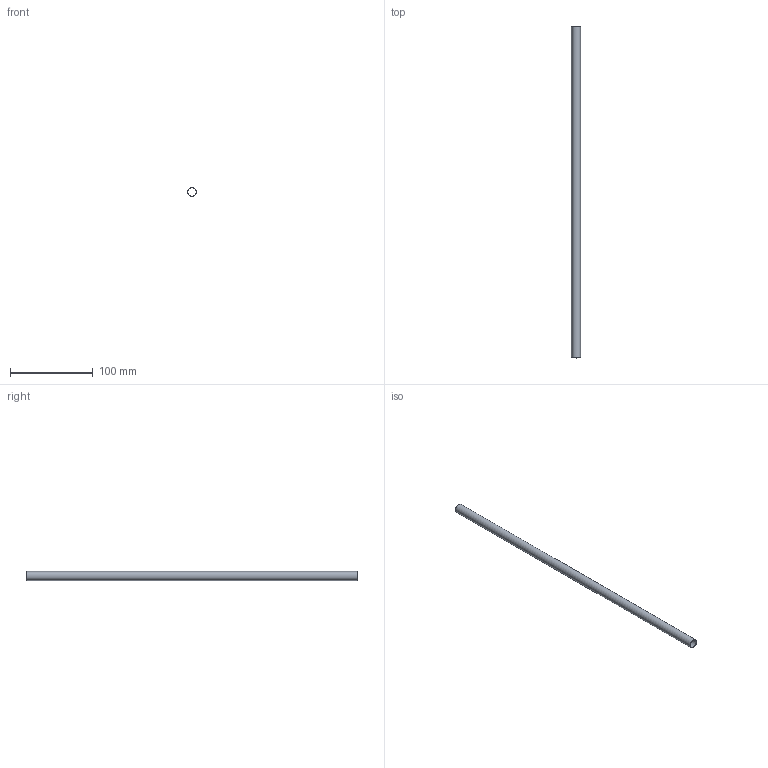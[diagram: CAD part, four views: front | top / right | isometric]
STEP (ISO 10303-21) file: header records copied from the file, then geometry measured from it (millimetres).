
FILE_DESCRIPTION(/* description */ (''),/* implementation_level */ '2;1');
FILE_NAME(/* name */ 'GE-BK.step',/* time_stamp */ '2025-12-16T16:24:17+03:00',/* author */ (''),/* organization */ (''),/* preprocessor_version */ 'ST-DEVELOPER v20.1',/* originating_system */ 'Autodesk Translation Framework v14.21.0.0',/* authorisation */ '');
FILE_SCHEMA (('AUTOMOTIVE_DESIGN { 1 0 10303 214 3 1 1 }'));
Length unit declared in the file: millimetre
Products named in the file (1): GE-BK
Bounding box: 11 x 400 x 11 mm (x, y, z)
Volume: 6597.3 mm3; surface area: 26422.4 mm2
Topology: 1 solids, 1 shells, 4 faces, 6 edges, 4 vertices
Faces by surface type: cylinder 2, plane 2
Full cylindrical faces by diameter (mm): 10 x1, 11 x1
Entity records: 138 total; most frequent: DIRECTION 20, CARTESIAN_POINT 15, ORIENTED_EDGE 12, AXIS2_PLACEMENT_3D 9, EDGE_LOOP 6, EDGE_CURVE 6, FACE_OUTER_BOUND 4, CIRCLE 4
